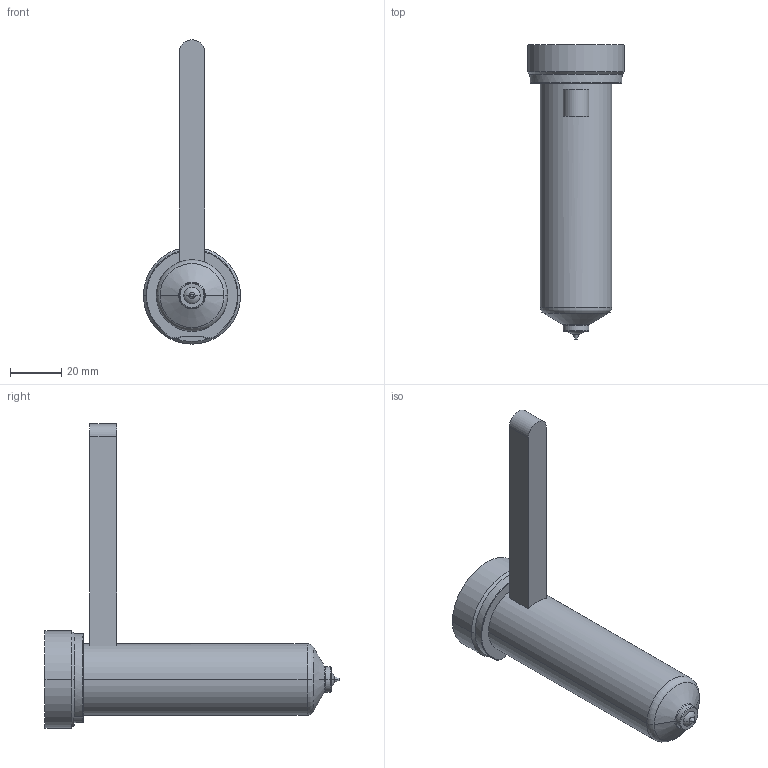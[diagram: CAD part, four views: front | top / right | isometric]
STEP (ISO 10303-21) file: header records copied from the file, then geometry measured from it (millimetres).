
FILE_DESCRIPTION((''),'2;1');
FILE_NAME('EO06_VG-BL_WR_100_COT','2024-02-19T13:03:36',('sundharh'),(''),'CREO PARAMETRIC BY PTC INC, 2023154','CREO PARAMETRIC BY PTC INC, 2023154','');
FILE_SCHEMA(('CONFIG_CONTROL_DESIGN'));
Length unit declared in the file: millimetre
Products named in the file (1): EO06_VG-BL_WR_100_COT
Bounding box: 38 x 115 x 119 mm (x, y, z)
Volume: 82143 mm3; surface area: 15427.5 mm2
Topology: 1 solids, 1 shells, 38 faces, 81 edges, 48 vertices
Faces by surface type: cylinder 11, plane 10, torus 9, cone 6, sphere 2
Entity records: 1147 total; most frequent: CARTESIAN_POINT 259, DIRECTION 199, ORIENTED_EDGE 162, AXIS2_PLACEMENT_3D 86, EDGE_CURVE 81, VERTEX_POINT 48, CIRCLE 48, EDGE_LOOP 41
